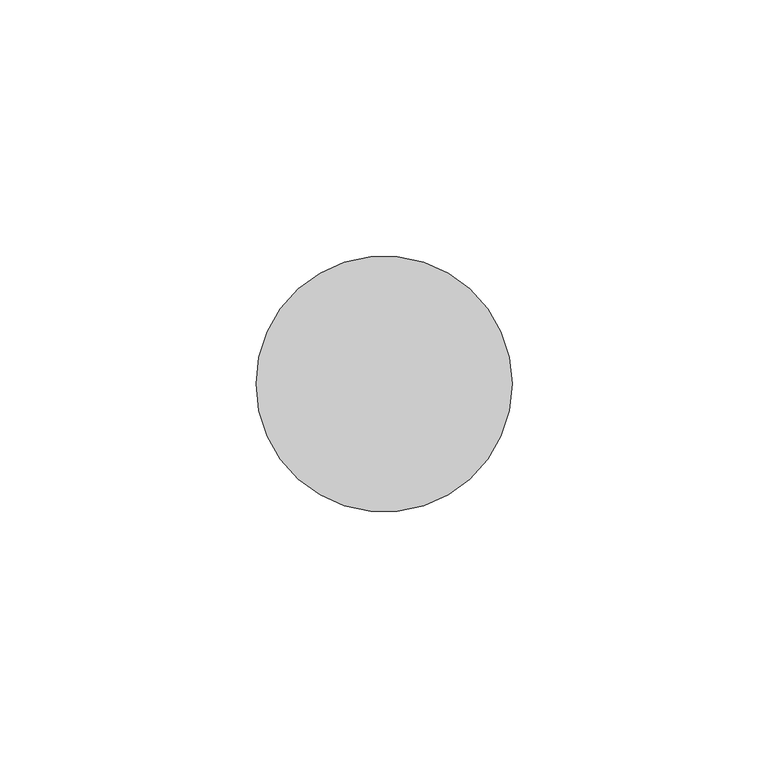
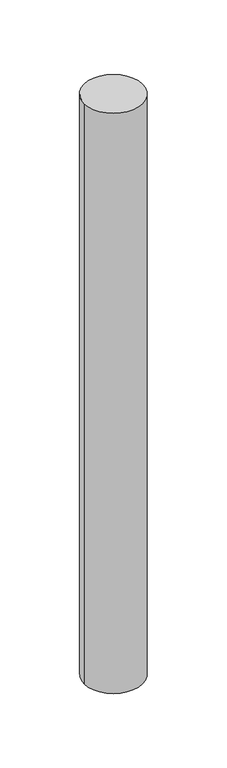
"""IFC4 building model written with IfcOpenShell, lengths in millimetres: member geometry, Импост круглого сечения : Радиус 25мм."""

from ifc_helpers import new_model, si_unit, point, frame, frame_2d, origin, place, context, project, spatial, circle_curve, trimmed, segment, composite_curve, outline, extrude, source, transform, mapped, element, save


def member_a07bf11e(model_context):
    return source(origin(), model_context, "Body", "SweptSolid", [
        extrude(outline(composite_curve([segment(trimmed(circle_curve(frame_2d((-25.0, 0.0)), 25.0), [point((0.0, 0.0))], [point((-50.0, 0.0))], False, "CARTESIAN"), True, "CONTINUOUS"), segment(trimmed(circle_curve(frame_2d((-25.0, 0.0)), 25.0), [point((-50.0, 0.0))], [point((0.0, 0.0))], False, "CARTESIAN"), True, "CONTINUOUS")], self_intersect=False)), frame((0.0, 0.0, -525.0), z_axis=(0.0, 0.0, 1.0), x_axis=(1.0, 0.0, 0.0)), (0.0, 0.0, 1.0), 525.0),
    ])


if __name__ == "__main__":
    model = new_model("IFC4")
    model_context = context("Model", 3, world=origin())
    ifc_project = project(units=[si_unit("LENGTHUNIT", "METRE", prefix="MILLI")], contexts=[model_context])
    site = spatial("IfcSite", under=ifc_project)
    building = spatial("IfcBuilding", under=site)
    placement = place(None, origin())
    member_shape = member_a07bf11e(model_context)
    element("IfcMember", 1, ObjectType="Импост круглого сечения : Радиус 25мм", at=placement, inside=building, context=model_context, shape_type="MappedRepresentation", body=[
        mapped(member_shape, transform((0.0, 0.0, 0.0), x_axis=(1.0, 0.0, 0.0), y_axis=(0.0, 1.0, 0.0), z_axis=(0.0, 0.0, 1.0))),
    ])
    save(model, "model.ifc")
